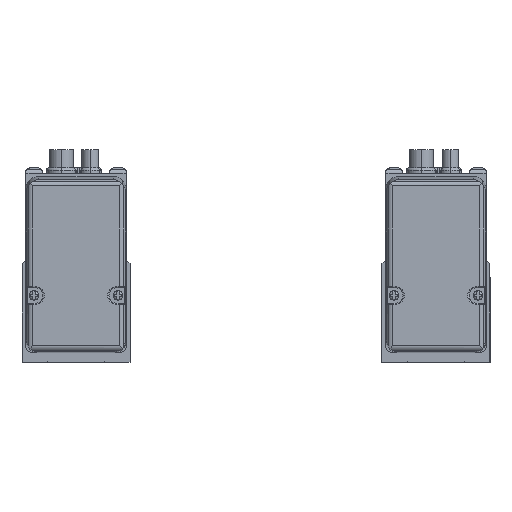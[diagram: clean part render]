
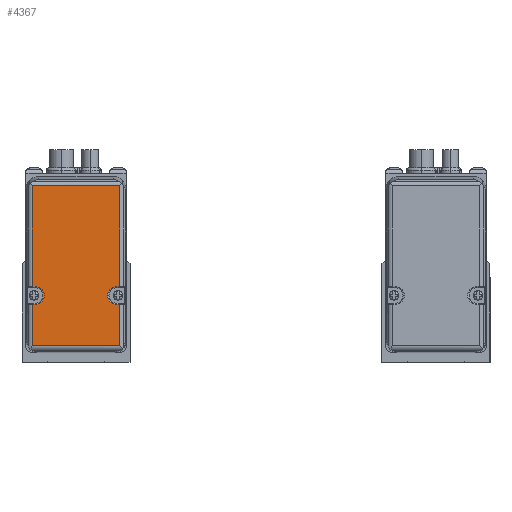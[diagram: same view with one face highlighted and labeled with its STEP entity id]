
A CAD part, left-side view. The second image highlights one B-rep face of the part: STEP entity #4367.
In plain terms, the highlighted planar face has unit normal (-1, 0, 0).
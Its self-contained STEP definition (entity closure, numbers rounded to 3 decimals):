
#4367=ADVANCED_FACE('',(#9847),#9848,.F.);
#9847=FACE_OUTER_BOUND('',#16817,.T.);
#9848=PLANE('',#16818);
#16817=EDGE_LOOP('',(#29359,#29360,#29361,#29362,#29363,#29364,#29365,#29366,#29367,#29368,#29369,#29370,#29371,#29372,#29373,#29374));
#16818=AXIS2_PLACEMENT_3D('',#29375,#29376,#29377);
#29359=ORIENTED_EDGE('',*,*,#45473,.F.);
#29360=ORIENTED_EDGE('',*,*,#45474,.F.);
#29361=ORIENTED_EDGE('',*,*,#43500,.F.);
#29362=ORIENTED_EDGE('',*,*,#42053,.F.);
#29363=ORIENTED_EDGE('',*,*,#45475,.F.);
#29364=ORIENTED_EDGE('',*,*,#44820,.F.);
#29365=ORIENTED_EDGE('',*,*,#45045,.F.);
#29366=ORIENTED_EDGE('',*,*,#45476,.F.);
#29367=ORIENTED_EDGE('',*,*,#45477,.F.);
#29368=ORIENTED_EDGE('',*,*,#43737,.F.);
#29369=ORIENTED_EDGE('',*,*,#45478,.F.);
#29370=ORIENTED_EDGE('',*,*,#45479,.F.);
#29371=ORIENTED_EDGE('',*,*,#45480,.F.);
#29372=ORIENTED_EDGE('',*,*,#45481,.F.);
#29373=ORIENTED_EDGE('',*,*,#45482,.F.);
#29374=ORIENTED_EDGE('',*,*,#45483,.F.);
#29375=CARTESIAN_POINT('',(-319.,225.0,20.));
#29376=DIRECTION('',(1.0,0.0,0.0));
#29377=DIRECTION('',(0.0,1.0,0.0));
#42053=EDGE_CURVE('',#50905,#50907,#50908,.T.);
#43500=EDGE_CURVE('',#50907,#53299,#53300,.T.);
#43737=EDGE_CURVE('',#53682,#53684,#53685,.T.);
#44820=EDGE_CURVE('',#55338,#55340,#55341,.T.);
#45045=EDGE_CURVE('',#55665,#55338,#55667,.T.);
#45473=EDGE_CURVE('',#56275,#56276,#56277,.T.);
#45474=EDGE_CURVE('',#53299,#56275,#56278,.T.);
#45475=EDGE_CURVE('',#55340,#50905,#56279,.T.);
#45476=EDGE_CURVE('',#56280,#55665,#56281,.T.);
#45477=EDGE_CURVE('',#53684,#56280,#56282,.T.);
#45478=EDGE_CURVE('',#56283,#53682,#56284,.T.);
#45479=EDGE_CURVE('',#56285,#56283,#56286,.T.);
#45480=EDGE_CURVE('',#52195,#56285,#56287,.T.);
#45481=EDGE_CURVE('',#56288,#52195,#56289,.T.);
#45482=EDGE_CURVE('',#56290,#56288,#56291,.T.);
#45483=EDGE_CURVE('',#56276,#56290,#56292,.T.);
#50905=VERTEX_POINT('',#63388);
#50907=VERTEX_POINT('',#63390);
#50908=LINE('',#63391,#63392);
#52195=VERTEX_POINT('',#65281);
#53299=VERTEX_POINT('',#66870);
#53300=CIRCLE('',#66871,3.75);
#53682=VERTEX_POINT('',#67444);
#53684=VERTEX_POINT('',#67463);
#53685=LINE('',#67464,#67465);
#55338=VERTEX_POINT('',#69892);
#55340=VERTEX_POINT('',#69894);
#55341=LINE('',#69895,#69896);
#55665=VERTEX_POINT('',#70343);
#55667=LINE('',#70345,#70346);
#56275=VERTEX_POINT('',#71278);
#56276=VERTEX_POINT('',#71279);
#56277=LINE('',#71280,#71281);
#56278=LINE('',#71282,#71283);
#56279=LINE('',#71284,#71285);
#56280=VERTEX_POINT('',#71286);
#56281=LINE('',#71287,#71288);
#56282=LINE('',#71289,#71290);
#56283=VERTEX_POINT('',#71291);
#56284=CIRCLE('',#71292,3.75);
#56285=VERTEX_POINT('',#71293);
#56286=LINE('',#71294,#71295);
#56287=LINE('',#71296,#71297);
#56288=VERTEX_POINT('',#71298);
#56289=LINE('',#71299,#71300);
#56290=VERTEX_POINT('',#71301);
#56291=LINE('',#71302,#71303);
#56292=LINE('',#71304,#71305);
#63388=CARTESIAN_POINT('',(-319.,241.995,1.55));
#63390=CARTESIAN_POINT('',(-319.,241.995,1.55));
#63391=CARTESIAN_POINT('',(-319.,241.995,12.65));
#63392=VECTOR('',#78582,1.0);
#65281=CARTESIAN_POINT('',(-319.,206.836,9.05));
#66870=CARTESIAN_POINT('',(-319.,241.995,9.05));
#66871=AXIS2_PLACEMENT_3D('',#80355,#80356,#80357);
#67444=CARTESIAN_POINT('',(-319.,208.005,1.55));
#67463=CARTESIAN_POINT('',(-319.,208.005,1.55));
#67464=CARTESIAN_POINT('',(-319.,208.005,12.65));
#67465=VECTOR('',#80612,1.0);
#69892=CARTESIAN_POINT('',(-319.,243.164,-15.664));
#69894=CARTESIAN_POINT('',(-319.,243.164,1.55));
#69895=CARTESIAN_POINT('',(-319.,243.164,21.25));
#69896=VECTOR('',#81946,1.0);
#70343=CARTESIAN_POINT('',(-319.,206.836,-15.664));
#70345=CARTESIAN_POINT('',(-319.,225.0,-15.664));
#70346=VECTOR('',#82226,1.0);
#71278=CARTESIAN_POINT('',(-319.,241.995,9.05));
#71279=CARTESIAN_POINT('',(-319.,243.164,9.05));
#71280=CARTESIAN_POINT('',(-319.,225.0,9.05));
#71281=VECTOR('',#82723,0.5);
#71282=CARTESIAN_POINT('',(-319.,241.995,12.65));
#71283=VECTOR('',#82724,1.0);
#71284=CARTESIAN_POINT('',(-319.,225.0,1.55));
#71285=VECTOR('',#82725,0.5);
#71286=CARTESIAN_POINT('',(-319.,206.836,1.55));
#71287=CARTESIAN_POINT('',(-319.,206.836,21.25));
#71288=VECTOR('',#82726,1.0);
#71289=CARTESIAN_POINT('',(-319.,225.0,1.55));
#71290=VECTOR('',#82727,0.5);
#71291=CARTESIAN_POINT('',(-319.,208.005,9.05));
#71292=AXIS2_PLACEMENT_3D('',#82728,#82729,#82730);
#71293=CARTESIAN_POINT('',(-319.,208.005,9.05));
#71294=CARTESIAN_POINT('',(-319.,208.005,12.65));
#71295=VECTOR('',#82731,1.0);
#71296=CARTESIAN_POINT('',(-319.,225.0,9.05));
#71297=VECTOR('',#82732,0.5);
#71298=CARTESIAN_POINT('',(-319.,206.836,51.065));
#71299=CARTESIAN_POINT('',(-319.,206.836,21.25));
#71300=VECTOR('',#82733,1.0);
#71301=CARTESIAN_POINT('',(-319.,243.164,51.065));
#71302=CARTESIAN_POINT('',(-319.,225.0,51.065));
#71303=VECTOR('',#82734,1.0);
#71304=CARTESIAN_POINT('',(-319.,243.164,21.25));
#71305=VECTOR('',#82735,1.0);
#78582=DIRECTION('',(0.0,0.,1.0));
#80355=CARTESIAN_POINT('',(-319.,242.0,5.3));
#80356=DIRECTION('',(-1.0,0.0,0.0));
#80357=DIRECTION('',(0.0,-1.0,0.));
#80612=DIRECTION('',(0.0,0.0,-1.0));
#81946=DIRECTION('',(0.0,0.0,1.0));
#82226=DIRECTION('',(0.0,1.0,0.));
#82723=DIRECTION('',(0.0,1.0,0.));
#82724=DIRECTION('',(0.0,0.,1.0));
#82725=DIRECTION('',(0.0,-1.0,0.));
#82726=DIRECTION('',(-0.0,0.,-1.0));
#82727=DIRECTION('',(0.0,-1.0,0.));
#82728=CARTESIAN_POINT('',(-319.,208.0,5.3));
#82729=DIRECTION('',(-1.0,0.0,0.0));
#82730=DIRECTION('',(0.0,1.0,0.0));
#82731=DIRECTION('',(0.0,0.0,-1.0));
#82732=DIRECTION('',(0.0,1.0,0.));
#82733=DIRECTION('',(-0.0,0.,-1.0));
#82734=DIRECTION('',(0.0,-1.0,0.));
#82735=DIRECTION('',(0.0,0.0,1.0));
